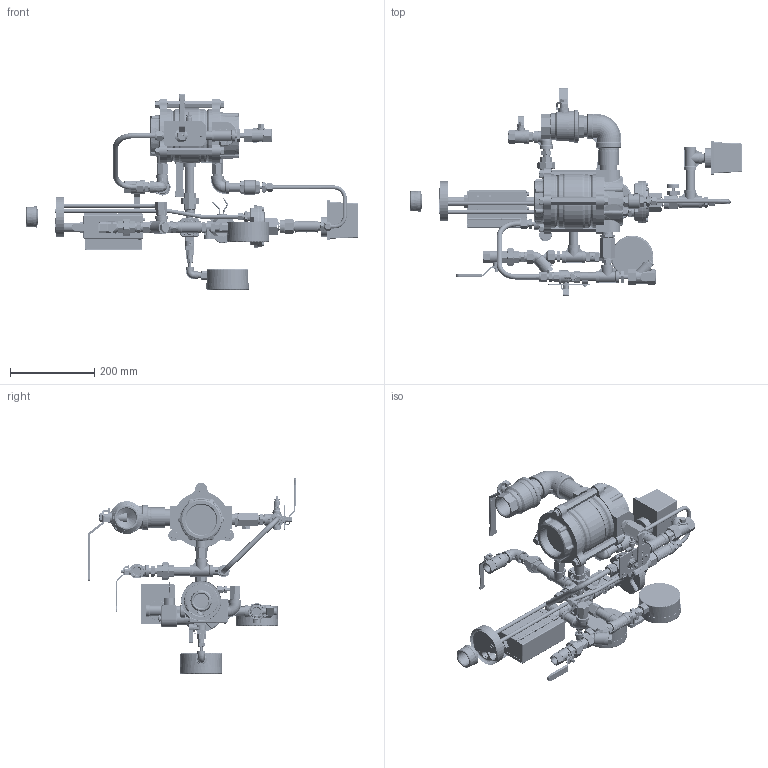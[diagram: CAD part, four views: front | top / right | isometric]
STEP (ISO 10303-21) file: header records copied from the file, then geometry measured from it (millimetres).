
FILE_DESCRIPTION(/* description */ (''),/* implementation_level */ '2;1');
FILE_NAME(/* name */ '711DX-04K01 FM Trim 2_5in.stp',/* time_stamp */ '2024-02-13T09:03:54+02:00',/* author */ ('alex'),/* organization */ (''),/* preprocessor_version */ 'ST-DEVELOPER v20',/* originating_system */ 'Autodesk Inventor 2024',/* authorisation */ '');
FILE_SCHEMA (('AUTOMOTIVE_DESIGN { 1 0 10303 214 3 1 1 }'));
Products named in the file (1): 711DX-04K01 Full Trim 2_5in STEP
Bounding box: 788.4 x 493.3 x 464.64 mm (x, y, z)
Volume: 4029441.4 mm3; surface area: 1301328.3 mm2
Topology: 9 solids, 62 shells, 6224 faces, 15383 edges, 9637 vertices
Faces by surface type: plane 3073, cone 1214, cylinder 1198, bspline 514, torus 209, sphere 16
Full cylindrical faces by diameter (mm): 1.5 x4, 2 x5, 3 x14, 3.7 x2, 4 x24, 4.1 x2, 4.134 x2, 4.2 x4, 4.5 x1, 4.7 x1, 4.8 x1, 4.978 x4, 5 x32, 5.2 x10, 5.3 x1, 5.5 x4, 6 x6, 6.2 x1, 6.33 x4, 6.4 x4, 6.5 x6, 6.7 x1, 7 x16, 7.036 x8, 7.3 x1, 7.515 x4, 7.6 x3, 8 x7, 8.1 x1, 8.3 x1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
Entity records: 232548 total; most frequent: CARTESIAN_POINT 85119, ORIENTED_EDGE 30560, DIRECTION 28109, EDGE_CURVE 15280, AXIS2_PLACEMENT_3D 10402, VERTEX_POINT 9612, LINE 7305, VECTOR 7305
